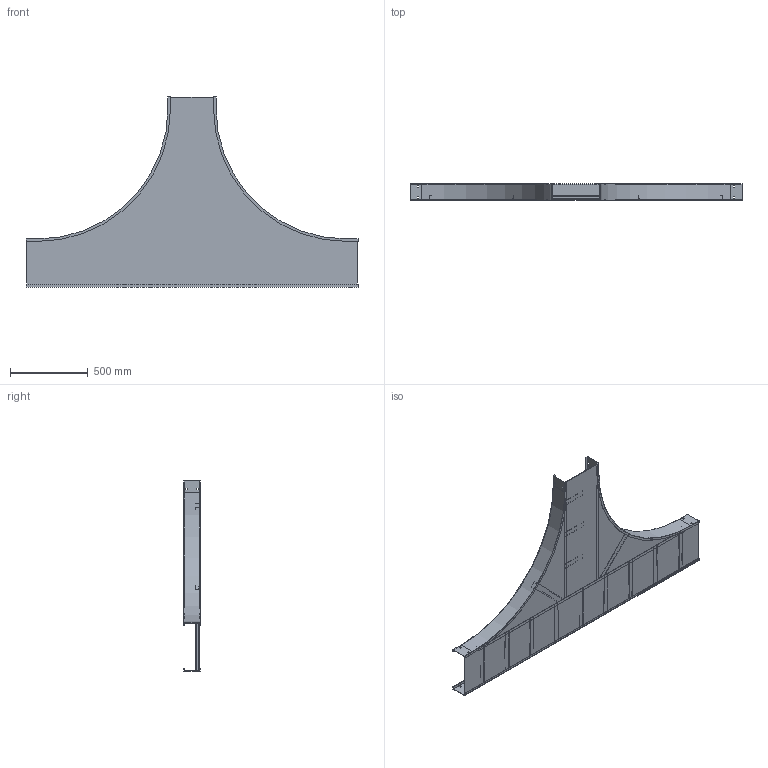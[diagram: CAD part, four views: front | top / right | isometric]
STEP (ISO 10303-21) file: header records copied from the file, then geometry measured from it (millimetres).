
FILE_DESCRIPTION((''),'2;1');
FILE_NAME('AUF412SHT36_ASM','2010-01-27T',('erouzier'),(''),'PRO/ENGINEER BY PARAMETRIC TECHNOLOGY CORPORATION, 2008510','PRO/ENGINEER BY PARAMETRIC TECHNOLOGY CORPORATION, 2008510','');
FILE_SCHEMA(('CONFIG_CONTROL_DESIGN'));
Length unit declared in the file: inch
Products named in the file (21): CDS001319-4-90-33-I; CDS013841-4-84; CDS000495_GEN_AF9; CDS002159L12_AF30; CDS002159L12_AF31; CDS002159L12_AF32; CDS002159L12_AF33; CDS002159L12_AF34; CDS002159L12_AF35; CDS002159L12_AF36; CDS002159L12; CDS002159L12_AF37; CDS000495_GEN_AF10; CDS000495_GEN_AF11; CDS002159L18_AF14; CDS002159L18_AF15; CDS002159L12_AF27; CDS002159L12_AF28; CDS002159L12_AF29; CDS003791-12-36-12; AUF412SHT36_ASM
Assembly tree (21 placements, depth 2):
  AUF412SHT36_ASM
    CDS001319-4-90-33-I  x2
    CDS013841-4-84
    CDS000495_GEN_AF9
    CDS002159L12_AF30
    CDS002159L12_AF31
    CDS002159L12_AF32
    CDS002159L12_AF33
    CDS002159L12_AF34
    CDS002159L12_AF35
    CDS002159L12_AF36
    CDS002159L12
    CDS002159L12_AF37
    CDS000495_GEN_AF10
    CDS000495_GEN_AF11
    CDS002159L18_AF14
    CDS002159L18_AF15
    CDS002159L12_AF27
    CDS002159L12_AF28
    CDS002159L12_AF29
    CDS003791-12-36-12
Bounding box: 2138.17 x 106.05 x 1223.77 mm (x, y, z)
Volume: 3946098.3 mm3; surface area: 5307759.1 mm2
Topology: 21 solids, 21 shells, 556 faces, 1542 edges, 1028 vertices
Faces by surface type: plane 392, cylinder 164
Entity records: 17275 total; most frequent: CARTESIAN_POINT 3146, ORIENTED_EDGE 2892, DIRECTION 2850, EDGE_CURVE 1446, VECTOR 1126, LINE 1126, VERTEX_POINT 964, AXIS2_PLACEMENT_3D 862
